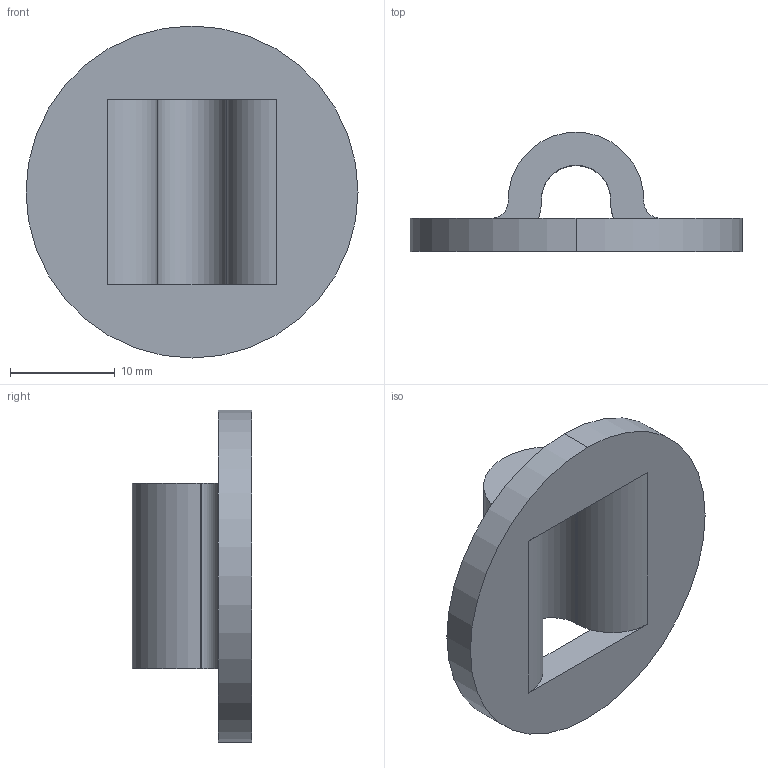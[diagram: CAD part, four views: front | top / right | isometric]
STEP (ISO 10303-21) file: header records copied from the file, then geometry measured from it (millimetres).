
FILE_DESCRIPTION (( 'STEP AP203' ), '1' );
FILE_NAME ('957877-10.STEP', '2024-11-14T17:34:03', ( '' ), ( '' ), 'SwSTEP 2.0', 'SolidWorks 2024', '' );
FILE_SCHEMA (( 'CONFIG_CONTROL_DESIGN' ));
Length unit declared in the file: inch
Products named in the file (1): 957877-10
Bounding box: 31.75 x 11.4 x 31.75 mm (x, y, z)
Volume: 3052.3 mm3; surface area: 2421.7 mm2
Topology: 1 solids, 1 shells, 20 faces, 56 edges, 36 vertices
Faces by surface type: cylinder 14, plane 6
Entity records: 747 total; most frequent: DIRECTION 130, CARTESIAN_POINT 113, ORIENTED_EDGE 112, EDGE_CURVE 56, AXIS2_PLACEMENT_3D 53, VERTEX_POINT 36, CIRCLE 32, LINE 24
